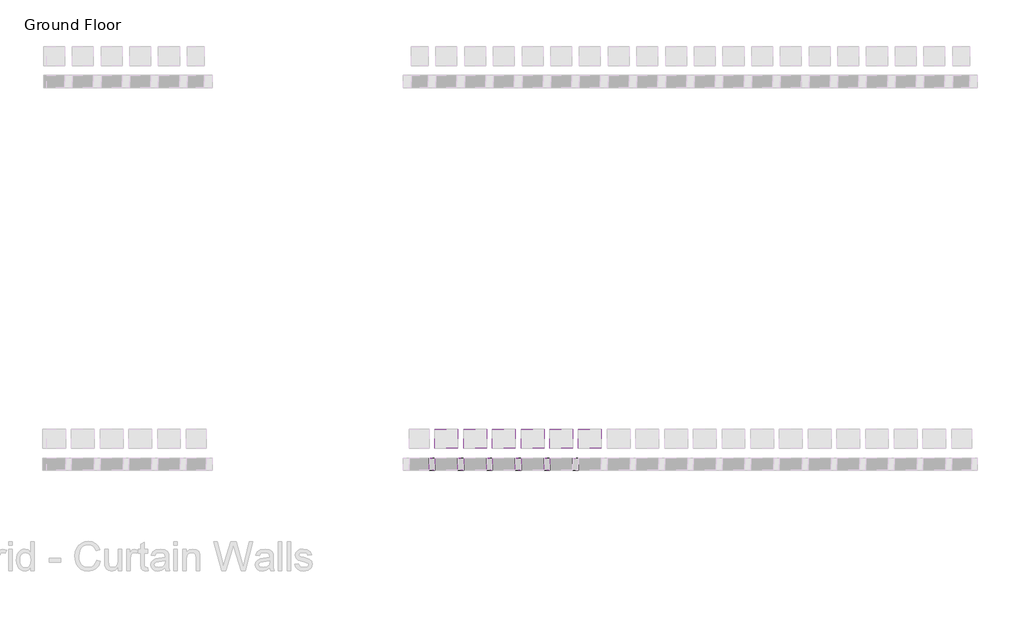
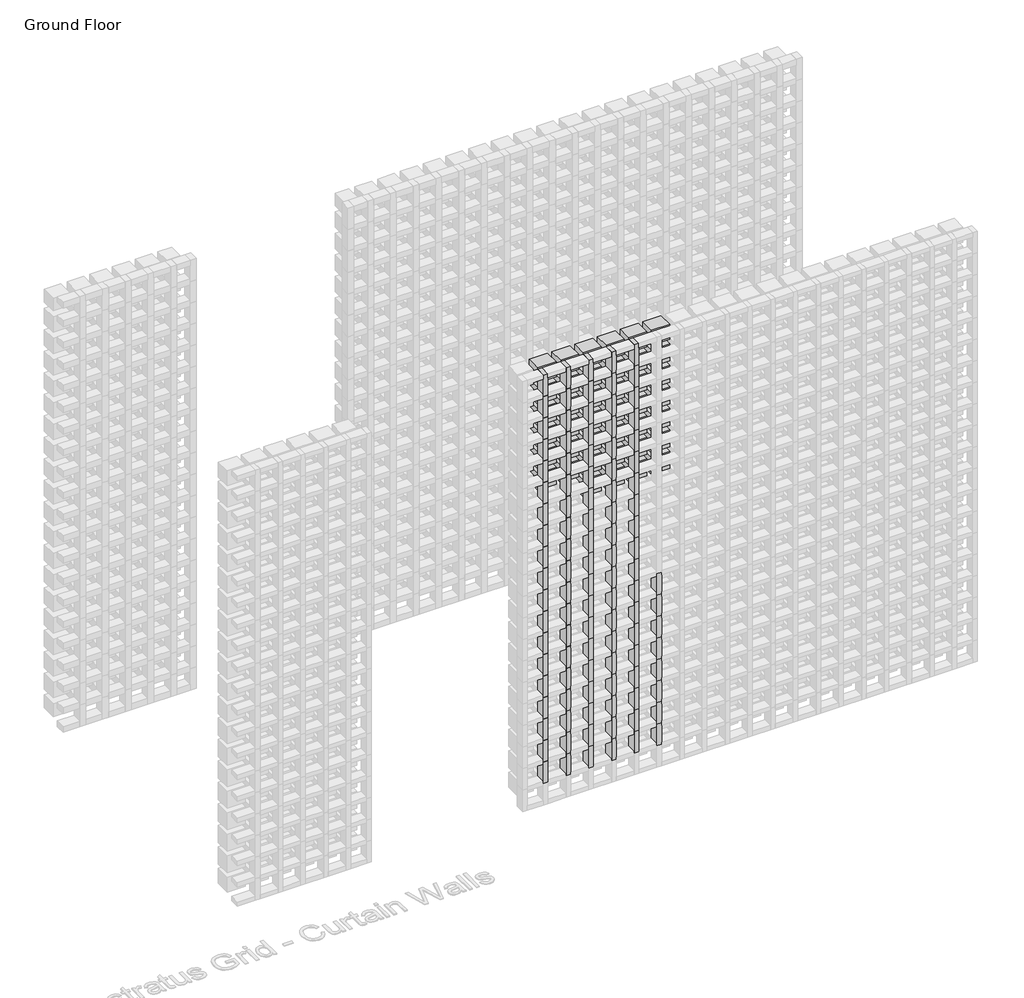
# One storey, part 56 of 350: 103 members, 40 plates.
"""IFC4 building model written with IfcOpenShell, lengths in millimetres."""

from ifc_helpers import new_model, si_unit, origin, place, context, project, spatial, transform, mapped, element, save
from components import rectangular_mullion_5b501421, empty_system_panel_empty_a57e421f, empty_system_panel_empty_fe50b430

model = new_model("IFC4")

# Units and contexts
model_context = context("Model", 3, world=origin())
ifc_project = project(units=[si_unit("LENGTHUNIT", "METRE", prefix="MILLI")], contexts=[model_context])

# Site, building, storey
site = spatial("IfcSite", under=ifc_project)
building = spatial("IfcBuilding", under=site)
storey = spatial("IfcBuildingStorey", under=building, Name="Ground Floor", Elevation=0.0)

# Members
placement = place(None, origin())
rectangular_mullion_shape = rectangular_mullion_5b501421(model_context)
element("IfcMember", 1, ObjectType="Rectangular Mullion : Batten_Timber_Modinex_Austratus_Grid_Fascia_30x65_Blackbutt", at=placement, inside=storey, context=model_context, shape_type="MappedRepresentation", body=[
    mapped(rectangular_mullion_shape, transform((6066.4361642, 38968.2978302, 150.0), x_axis=(1.0, 0.0, 0.0), y_axis=(0.0, -1.0, 0.0), z_axis=(0.0, 0.0, -1.0))),
])
element("IfcMember", 2, ObjectType="Rectangular Mullion : Batten_Timber_Modinex_Austratus_Grid_Fascia_30x65_Blackbutt", at=placement, inside=storey, context=model_context, shape_type="MappedRepresentation", body=[
    mapped(rectangular_mullion_shape, transform((6066.4361642, 38968.2978302, 300.0), x_axis=(1.0, 0.0, 0.0), y_axis=(0.0, -1.0, 0.0), z_axis=(0.0, 0.0, -1.0))),
])
element("IfcMember", 3, ObjectType="Rectangular Mullion : Batten_Timber_Modinex_Austratus_Grid_Fascia_30x65_Blackbutt", at=placement, inside=storey, context=model_context, shape_type="MappedRepresentation", body=[
    mapped(rectangular_mullion_shape, transform((6066.4361642, 38968.2978302, 450.0), x_axis=(1.0, 0.0, 0.0), y_axis=(0.0, -1.0, 0.0), z_axis=(0.0, 0.0, -1.0))),
])
element("IfcMember", 4, ObjectType="Rectangular Mullion : Batten_Timber_Modinex_Austratus_Grid_Fascia_30x65_Blackbutt", at=placement, inside=storey, context=model_context, shape_type="MappedRepresentation", body=[
    mapped(rectangular_mullion_shape, transform((6066.4361642, 38968.2978302, 600.0), x_axis=(1.0, 0.0, 0.0), y_axis=(0.0, -1.0, 0.0), z_axis=(0.0, 0.0, -1.0))),
])
element("IfcMember", 5, ObjectType="Rectangular Mullion : Batten_Timber_Modinex_Austratus_Grid_Fascia_30x65_Blackbutt", at=placement, inside=storey, context=model_context, shape_type="MappedRepresentation", body=[
    mapped(rectangular_mullion_shape, transform((6066.4361642, 38968.2978302, 750.0), x_axis=(1.0, 0.0, 0.0), y_axis=(0.0, -1.0, 0.0), z_axis=(0.0, 0.0, -1.0))),
])
element("IfcMember", 6, ObjectType="Rectangular Mullion : Batten_Timber_Modinex_Austratus_Grid_Fascia_30x65_Blackbutt", at=placement, inside=storey, context=model_context, shape_type="MappedRepresentation", body=[
    mapped(rectangular_mullion_shape, transform((6066.4361642, 38968.2978302, 900.0), x_axis=(1.0, 0.0, 0.0), y_axis=(0.0, -1.0, 0.0), z_axis=(0.0, 0.0, -1.0))),
])
element("IfcMember", 7, ObjectType="Rectangular Mullion : Batten_Timber_Modinex_Austratus_Grid_Fascia_30x65_Blackbutt", at=placement, inside=storey, context=model_context, shape_type="MappedRepresentation", body=[
    mapped(rectangular_mullion_shape, transform((6066.4361642, 38968.2978302, 1050.0), x_axis=(1.0, 0.0, 0.0), y_axis=(0.0, -1.0, 0.0), z_axis=(0.0, 0.0, -1.0))),
])
element("IfcMember", 8, ObjectType="Rectangular Mullion : Batten_Timber_Modinex_Austratus_Grid_Fascia_30x65_Blackbutt", at=placement, inside=storey, context=model_context, shape_type="MappedRepresentation", body=[
    mapped(rectangular_mullion_shape, transform((6066.4361642, 38968.2978302, 1200.0), x_axis=(1.0, 0.0, 0.0), y_axis=(0.0, -1.0, 0.0), z_axis=(0.0, 0.0, -1.0))),
])
element("IfcMember", 9, ObjectType="Rectangular Mullion : Batten_Timber_Modinex_Austratus_Grid_Fascia_30x65_Blackbutt", at=placement, inside=storey, context=model_context, shape_type="MappedRepresentation", body=[
    mapped(rectangular_mullion_shape, transform((6066.4361642, 38968.2978302, 1350.0), x_axis=(1.0, 0.0, 0.0), y_axis=(0.0, -1.0, 0.0), z_axis=(0.0, 0.0, -1.0))),
])
element("IfcMember", 10, ObjectType="Rectangular Mullion : Batten_Timber_Modinex_Austratus_Grid_Fascia_30x65_Blackbutt", at=placement, inside=storey, context=model_context, shape_type="MappedRepresentation", body=[
    mapped(rectangular_mullion_shape, transform((6066.4361642, 38968.2978302, 1500.0), x_axis=(1.0, 0.0, 0.0), y_axis=(0.0, -1.0, 0.0), z_axis=(0.0, 0.0, -1.0))),
])
element("IfcMember", 11, ObjectType="Rectangular Mullion : Batten_Timber_Modinex_Austratus_Grid_Fascia_30x65_Blackbutt", at=placement, inside=storey, context=model_context, shape_type="MappedRepresentation", body=[
    mapped(rectangular_mullion_shape, transform((6066.4361642, 38968.2978302, 1650.0), x_axis=(1.0, 0.0, 0.0), y_axis=(0.0, -1.0, 0.0), z_axis=(0.0, 0.0, -1.0))),
])
element("IfcMember", 12, ObjectType="Rectangular Mullion : Batten_Timber_Modinex_Austratus_Grid_Fascia_30x65_Blackbutt", at=placement, inside=storey, context=model_context, shape_type="MappedRepresentation", body=[
    mapped(rectangular_mullion_shape, transform((6066.4361642, 38968.2978302, 1800.0), x_axis=(1.0, 0.0, 0.0), y_axis=(0.0, -1.0, 0.0), z_axis=(0.0, 0.0, -1.0))),
])
element("IfcMember", 13, ObjectType="Rectangular Mullion : Batten_Timber_Modinex_Austratus_Grid_Fascia_30x65_Blackbutt", at=placement, inside=storey, context=model_context, shape_type="MappedRepresentation", body=[
    mapped(rectangular_mullion_shape, transform((6066.4361642, 38968.2978302, 1950.0), x_axis=(1.0, 0.0, 0.0), y_axis=(0.0, -1.0, 0.0), z_axis=(0.0, 0.0, -1.0))),
])
element("IfcMember", 14, ObjectType="Rectangular Mullion : Batten_Timber_Modinex_Austratus_Grid_Fascia_30x65_Blackbutt", at=placement, inside=storey, context=model_context, shape_type="MappedRepresentation", body=[
    mapped(rectangular_mullion_shape, transform((6066.4361642, 38968.2978302, 2100.0), x_axis=(1.0, 0.0, 0.0), y_axis=(0.0, -1.0, 0.0), z_axis=(0.0, 0.0, -1.0))),
])
element("IfcMember", 15, ObjectType="Rectangular Mullion : Batten_Timber_Modinex_Austratus_Grid_Fascia_30x65_Blackbutt", at=placement, inside=storey, context=model_context, shape_type="MappedRepresentation", body=[
    mapped(rectangular_mullion_shape, transform((6066.4361642, 38968.2978302, 2250.0), x_axis=(1.0, 0.0, 0.0), y_axis=(0.0, -1.0, 0.0), z_axis=(0.0, 0.0, -1.0))),
])
element("IfcMember", 16, ObjectType="Rectangular Mullion : Batten_Timber_Modinex_Austratus_Grid_Fascia_30x65_Blackbutt", at=placement, inside=storey, context=model_context, shape_type="MappedRepresentation", body=[
    mapped(rectangular_mullion_shape, transform((6066.4361642, 38968.2978302, 2400.0), x_axis=(1.0, 0.0, 0.0), y_axis=(0.0, -1.0, 0.0), z_axis=(0.0, 0.0, -1.0))),
])
element("IfcMember", 17, ObjectType="Rectangular Mullion : Batten_Timber_Modinex_Austratus_Grid_Fascia_30x65_Blackbutt", at=placement, inside=storey, context=model_context, shape_type="MappedRepresentation", body=[
    mapped(rectangular_mullion_shape, transform((6066.4361642, 38968.2978302, 2550.0), x_axis=(1.0, 0.0, 0.0), y_axis=(0.0, -1.0, 0.0), z_axis=(0.0, 0.0, -1.0))),
])
element("IfcMember", 18, ObjectType="Rectangular Mullion : Batten_Timber_Modinex_Austratus_Grid_Fascia_30x65_Blackbutt", at=placement, inside=storey, context=model_context, shape_type="MappedRepresentation", body=[
    mapped(rectangular_mullion_shape, transform((6066.4361642, 38968.2978302, 2700.0), x_axis=(1.0, 0.0, 0.0), y_axis=(0.0, -1.0, 0.0), z_axis=(0.0, 0.0, -1.0))),
])
element("IfcMember", 19, ObjectType="Rectangular Mullion : Batten_Timber_Modinex_Austratus_Grid_Fascia_30x65_Blackbutt", at=placement, inside=storey, context=model_context, shape_type="MappedRepresentation", body=[
    mapped(rectangular_mullion_shape, transform((6216.4361642, 38968.2978302, 150.0), x_axis=(1.0, 0.0, 0.0), y_axis=(0.0, -1.0, 0.0), z_axis=(0.0, 0.0, -1.0))),
])
element("IfcMember", 20, ObjectType="Rectangular Mullion : Batten_Timber_Modinex_Austratus_Grid_Fascia_30x65_Blackbutt", at=placement, inside=storey, context=model_context, shape_type="MappedRepresentation", body=[
    mapped(rectangular_mullion_shape, transform((6216.4361642, 38968.2978302, 300.0), x_axis=(1.0, 0.0, 0.0), y_axis=(0.0, -1.0, 0.0), z_axis=(0.0, 0.0, -1.0))),
])
element("IfcMember", 21, ObjectType="Rectangular Mullion : Batten_Timber_Modinex_Austratus_Grid_Fascia_30x65_Blackbutt", at=placement, inside=storey, context=model_context, shape_type="MappedRepresentation", body=[
    mapped(rectangular_mullion_shape, transform((6216.4361642, 38968.2978302, 450.0), x_axis=(1.0, 0.0, 0.0), y_axis=(0.0, -1.0, 0.0), z_axis=(0.0, 0.0, -1.0))),
])
element("IfcMember", 22, ObjectType="Rectangular Mullion : Batten_Timber_Modinex_Austratus_Grid_Fascia_30x65_Blackbutt", at=placement, inside=storey, context=model_context, shape_type="MappedRepresentation", body=[
    mapped(rectangular_mullion_shape, transform((6216.4361642, 38968.2978302, 600.0), x_axis=(1.0, 0.0, 0.0), y_axis=(0.0, -1.0, 0.0), z_axis=(0.0, 0.0, -1.0))),
])
element("IfcMember", 23, ObjectType="Rectangular Mullion : Batten_Timber_Modinex_Austratus_Grid_Fascia_30x65_Blackbutt", at=placement, inside=storey, context=model_context, shape_type="MappedRepresentation", body=[
    mapped(rectangular_mullion_shape, transform((6216.4361642, 38968.2978302, 750.0), x_axis=(1.0, 0.0, 0.0), y_axis=(0.0, -1.0, 0.0), z_axis=(0.0, 0.0, -1.0))),
])
element("IfcMember", 24, ObjectType="Rectangular Mullion : Batten_Timber_Modinex_Austratus_Grid_Fascia_30x65_Blackbutt", at=placement, inside=storey, context=model_context, shape_type="MappedRepresentation", body=[
    mapped(rectangular_mullion_shape, transform((6216.4361642, 38968.2978302, 900.0), x_axis=(1.0, 0.0, 0.0), y_axis=(0.0, -1.0, 0.0), z_axis=(0.0, 0.0, -1.0))),
])
element("IfcMember", 25, ObjectType="Rectangular Mullion : Batten_Timber_Modinex_Austratus_Grid_Fascia_30x65_Blackbutt", at=placement, inside=storey, context=model_context, shape_type="MappedRepresentation", body=[
    mapped(rectangular_mullion_shape, transform((6216.4361642, 38968.2978302, 1050.0), x_axis=(1.0, 0.0, 0.0), y_axis=(0.0, -1.0, 0.0), z_axis=(0.0, 0.0, -1.0))),
])
element("IfcMember", 26, ObjectType="Rectangular Mullion : Batten_Timber_Modinex_Austratus_Grid_Fascia_30x65_Blackbutt", at=placement, inside=storey, context=model_context, shape_type="MappedRepresentation", body=[
    mapped(rectangular_mullion_shape, transform((6216.4361642, 38968.2978302, 1200.0), x_axis=(1.0, 0.0, 0.0), y_axis=(0.0, -1.0, 0.0), z_axis=(0.0, 0.0, -1.0))),
])
element("IfcMember", 27, ObjectType="Rectangular Mullion : Batten_Timber_Modinex_Austratus_Grid_Fascia_30x65_Blackbutt", at=placement, inside=storey, context=model_context, shape_type="MappedRepresentation", body=[
    mapped(rectangular_mullion_shape, transform((6216.4361642, 38968.2978302, 1350.0), x_axis=(1.0, 0.0, 0.0), y_axis=(0.0, -1.0, 0.0), z_axis=(0.0, 0.0, -1.0))),
])
element("IfcMember", 28, ObjectType="Rectangular Mullion : Batten_Timber_Modinex_Austratus_Grid_Fascia_30x65_Blackbutt", at=placement, inside=storey, context=model_context, shape_type="MappedRepresentation", body=[
    mapped(rectangular_mullion_shape, transform((6216.4361642, 38968.2978302, 1500.0), x_axis=(1.0, 0.0, 0.0), y_axis=(0.0, -1.0, 0.0), z_axis=(0.0, 0.0, -1.0))),
])
element("IfcMember", 29, ObjectType="Rectangular Mullion : Batten_Timber_Modinex_Austratus_Grid_Fascia_30x65_Blackbutt", at=placement, inside=storey, context=model_context, shape_type="MappedRepresentation", body=[
    mapped(rectangular_mullion_shape, transform((6216.4361642, 38968.2978302, 1650.0), x_axis=(1.0, 0.0, 0.0), y_axis=(0.0, -1.0, 0.0), z_axis=(0.0, 0.0, -1.0))),
])
element("IfcMember", 30, ObjectType="Rectangular Mullion : Batten_Timber_Modinex_Austratus_Grid_Fascia_30x65_Blackbutt", at=placement, inside=storey, context=model_context, shape_type="MappedRepresentation", body=[
    mapped(rectangular_mullion_shape, transform((6216.4361642, 38968.2978302, 1800.0), x_axis=(1.0, 0.0, 0.0), y_axis=(0.0, -1.0, 0.0), z_axis=(0.0, 0.0, -1.0))),
])
element("IfcMember", 31, ObjectType="Rectangular Mullion : Batten_Timber_Modinex_Austratus_Grid_Fascia_30x65_Blackbutt", at=placement, inside=storey, context=model_context, shape_type="MappedRepresentation", body=[
    mapped(rectangular_mullion_shape, transform((6216.4361642, 38968.2978302, 1950.0), x_axis=(1.0, 0.0, 0.0), y_axis=(0.0, -1.0, 0.0), z_axis=(0.0, 0.0, -1.0))),
])
element("IfcMember", 32, ObjectType="Rectangular Mullion : Batten_Timber_Modinex_Austratus_Grid_Fascia_30x65_Blackbutt", at=placement, inside=storey, context=model_context, shape_type="MappedRepresentation", body=[
    mapped(rectangular_mullion_shape, transform((6216.4361642, 38968.2978302, 2100.0), x_axis=(1.0, 0.0, 0.0), y_axis=(0.0, -1.0, 0.0), z_axis=(0.0, 0.0, -1.0))),
])
element("IfcMember", 33, ObjectType="Rectangular Mullion : Batten_Timber_Modinex_Austratus_Grid_Fascia_30x65_Blackbutt", at=placement, inside=storey, context=model_context, shape_type="MappedRepresentation", body=[
    mapped(rectangular_mullion_shape, transform((6216.4361642, 38968.2978302, 2250.0), x_axis=(1.0, 0.0, 0.0), y_axis=(0.0, -1.0, 0.0), z_axis=(0.0, 0.0, -1.0))),
])
element("IfcMember", 34, ObjectType="Rectangular Mullion : Batten_Timber_Modinex_Austratus_Grid_Fascia_30x65_Blackbutt", at=placement, inside=storey, context=model_context, shape_type="MappedRepresentation", body=[
    mapped(rectangular_mullion_shape, transform((6216.4361642, 38968.2978302, 2400.0), x_axis=(1.0, 0.0, 0.0), y_axis=(0.0, -1.0, 0.0), z_axis=(0.0, 0.0, -1.0))),
])
element("IfcMember", 35, ObjectType="Rectangular Mullion : Batten_Timber_Modinex_Austratus_Grid_Fascia_30x65_Blackbutt", at=placement, inside=storey, context=model_context, shape_type="MappedRepresentation", body=[
    mapped(rectangular_mullion_shape, transform((6216.4361642, 38968.2978302, 2550.0), x_axis=(1.0, 0.0, 0.0), y_axis=(0.0, -1.0, 0.0), z_axis=(0.0, 0.0, -1.0))),
])
element("IfcMember", 36, ObjectType="Rectangular Mullion : Batten_Timber_Modinex_Austratus_Grid_Fascia_30x65_Blackbutt", at=placement, inside=storey, context=model_context, shape_type="MappedRepresentation", body=[
    mapped(rectangular_mullion_shape, transform((6216.4361642, 38968.2978302, 2700.0), x_axis=(1.0, 0.0, 0.0), y_axis=(0.0, -1.0, 0.0), z_axis=(0.0, 0.0, -1.0))),
])
element("IfcMember", 37, ObjectType="Rectangular Mullion : Batten_Timber_Modinex_Austratus_Grid_Fascia_30x65_Blackbutt", at=placement, inside=storey, context=model_context, shape_type="MappedRepresentation", body=[
    mapped(rectangular_mullion_shape, transform((6366.4361642, 38968.2978302, 150.0), x_axis=(1.0, 0.0, 0.0), y_axis=(0.0, -1.0, 0.0), z_axis=(0.0, 0.0, -1.0))),
])
element("IfcMember", 38, ObjectType="Rectangular Mullion : Batten_Timber_Modinex_Austratus_Grid_Fascia_30x65_Blackbutt", at=placement, inside=storey, context=model_context, shape_type="MappedRepresentation", body=[
    mapped(rectangular_mullion_shape, transform((6366.4361642, 38968.2978302, 300.0), x_axis=(1.0, 0.0, 0.0), y_axis=(0.0, -1.0, 0.0), z_axis=(0.0, 0.0, -1.0))),
])
element("IfcMember", 39, ObjectType="Rectangular Mullion : Batten_Timber_Modinex_Austratus_Grid_Fascia_30x65_Blackbutt", at=placement, inside=storey, context=model_context, shape_type="MappedRepresentation", body=[
    mapped(rectangular_mullion_shape, transform((6366.4361642, 38968.2978302, 450.0), x_axis=(1.0, 0.0, 0.0), y_axis=(0.0, -1.0, 0.0), z_axis=(0.0, 0.0, -1.0))),
])
element("IfcMember", 40, ObjectType="Rectangular Mullion : Batten_Timber_Modinex_Austratus_Grid_Fascia_30x65_Blackbutt", at=placement, inside=storey, context=model_context, shape_type="MappedRepresentation", body=[
    mapped(rectangular_mullion_shape, transform((6366.4361642, 38968.2978302, 600.0), x_axis=(1.0, 0.0, 0.0), y_axis=(0.0, -1.0, 0.0), z_axis=(0.0, 0.0, -1.0))),
])
element("IfcMember", 41, ObjectType="Rectangular Mullion : Batten_Timber_Modinex_Austratus_Grid_Fascia_30x65_Blackbutt", at=placement, inside=storey, context=model_context, shape_type="MappedRepresentation", body=[
    mapped(rectangular_mullion_shape, transform((6366.4361642, 38968.2978302, 750.0), x_axis=(1.0, 0.0, 0.0), y_axis=(0.0, -1.0, 0.0), z_axis=(0.0, 0.0, -1.0))),
])
element("IfcMember", 42, ObjectType="Rectangular Mullion : Batten_Timber_Modinex_Austratus_Grid_Fascia_30x65_Blackbutt", at=placement, inside=storey, context=model_context, shape_type="MappedRepresentation", body=[
    mapped(rectangular_mullion_shape, transform((6366.4361642, 38968.2978302, 900.0), x_axis=(1.0, 0.0, 0.0), y_axis=(0.0, -1.0, 0.0), z_axis=(0.0, 0.0, -1.0))),
])
element("IfcMember", 43, ObjectType="Rectangular Mullion : Batten_Timber_Modinex_Austratus_Grid_Fascia_30x65_Blackbutt", at=placement, inside=storey, context=model_context, shape_type="MappedRepresentation", body=[
    mapped(rectangular_mullion_shape, transform((6366.4361642, 38968.2978302, 1050.0), x_axis=(1.0, 0.0, 0.0), y_axis=(0.0, -1.0, 0.0), z_axis=(0.0, 0.0, -1.0))),
])
element("IfcMember", 44, ObjectType="Rectangular Mullion : Batten_Timber_Modinex_Austratus_Grid_Fascia_30x65_Blackbutt", at=placement, inside=storey, context=model_context, shape_type="MappedRepresentation", body=[
    mapped(rectangular_mullion_shape, transform((6366.4361642, 38968.2978302, 1200.0), x_axis=(1.0, 0.0, 0.0), y_axis=(0.0, -1.0, 0.0), z_axis=(0.0, 0.0, -1.0))),
])
element("IfcMember", 45, ObjectType="Rectangular Mullion : Batten_Timber_Modinex_Austratus_Grid_Fascia_30x65_Blackbutt", at=placement, inside=storey, context=model_context, shape_type="MappedRepresentation", body=[
    mapped(rectangular_mullion_shape, transform((6366.4361642, 38968.2978302, 1350.0), x_axis=(1.0, 0.0, 0.0), y_axis=(0.0, -1.0, 0.0), z_axis=(0.0, 0.0, -1.0))),
])
element("IfcMember", 46, ObjectType="Rectangular Mullion : Batten_Timber_Modinex_Austratus_Grid_Fascia_30x65_Blackbutt", at=placement, inside=storey, context=model_context, shape_type="MappedRepresentation", body=[
    mapped(rectangular_mullion_shape, transform((6366.4361642, 38968.2978302, 1500.0), x_axis=(1.0, 0.0, 0.0), y_axis=(0.0, -1.0, 0.0), z_axis=(0.0, 0.0, -1.0))),
])
element("IfcMember", 47, ObjectType="Rectangular Mullion : Batten_Timber_Modinex_Austratus_Grid_Fascia_30x65_Blackbutt", at=placement, inside=storey, context=model_context, shape_type="MappedRepresentation", body=[
    mapped(rectangular_mullion_shape, transform((6366.4361642, 38968.2978302, 1650.0), x_axis=(1.0, 0.0, 0.0), y_axis=(0.0, -1.0, 0.0), z_axis=(0.0, 0.0, -1.0))),
])
element("IfcMember", 48, ObjectType="Rectangular Mullion : Batten_Timber_Modinex_Austratus_Grid_Fascia_30x65_Blackbutt", at=placement, inside=storey, context=model_context, shape_type="MappedRepresentation", body=[
    mapped(rectangular_mullion_shape, transform((6366.4361642, 38968.2978302, 1800.0), x_axis=(1.0, 0.0, 0.0), y_axis=(0.0, -1.0, 0.0), z_axis=(0.0, 0.0, -1.0))),
])
element("IfcMember", 49, ObjectType="Rectangular Mullion : Batten_Timber_Modinex_Austratus_Grid_Fascia_30x65_Blackbutt", at=placement, inside=storey, context=model_context, shape_type="MappedRepresentation", body=[
    mapped(rectangular_mullion_shape, transform((6366.4361642, 38968.2978302, 1950.0), x_axis=(1.0, 0.0, 0.0), y_axis=(0.0, -1.0, 0.0), z_axis=(0.0, 0.0, -1.0))),
])
element("IfcMember", 50, ObjectType="Rectangular Mullion : Batten_Timber_Modinex_Austratus_Grid_Fascia_30x65_Blackbutt", at=placement, inside=storey, context=model_context, shape_type="MappedRepresentation", body=[
    mapped(rectangular_mullion_shape, transform((6366.4361642, 38968.2978302, 2100.0), x_axis=(1.0, 0.0, 0.0), y_axis=(0.0, -1.0, 0.0), z_axis=(0.0, 0.0, -1.0))),
])
element("IfcMember", 51, ObjectType="Rectangular Mullion : Batten_Timber_Modinex_Austratus_Grid_Fascia_30x65_Blackbutt", at=placement, inside=storey, context=model_context, shape_type="MappedRepresentation", body=[
    mapped(rectangular_mullion_shape, transform((6366.4361642, 38968.2978302, 2250.0), x_axis=(1.0, 0.0, 0.0), y_axis=(0.0, -1.0, 0.0), z_axis=(0.0, 0.0, -1.0))),
])
element("IfcMember", 52, ObjectType="Rectangular Mullion : Batten_Timber_Modinex_Austratus_Grid_Fascia_30x65_Blackbutt", at=placement, inside=storey, context=model_context, shape_type="MappedRepresentation", body=[
    mapped(rectangular_mullion_shape, transform((6366.4361642, 38968.2978302, 2400.0), x_axis=(1.0, 0.0, 0.0), y_axis=(0.0, -1.0, 0.0), z_axis=(0.0, 0.0, -1.0))),
])
element("IfcMember", 53, ObjectType="Rectangular Mullion : Batten_Timber_Modinex_Austratus_Grid_Fascia_30x65_Blackbutt", at=placement, inside=storey, context=model_context, shape_type="MappedRepresentation", body=[
    mapped(rectangular_mullion_shape, transform((6366.4361642, 38968.2978302, 2550.0), x_axis=(1.0, 0.0, 0.0), y_axis=(0.0, -1.0, 0.0), z_axis=(0.0, 0.0, -1.0))),
])
element("IfcMember", 54, ObjectType="Rectangular Mullion : Batten_Timber_Modinex_Austratus_Grid_Fascia_30x65_Blackbutt", at=placement, inside=storey, context=model_context, shape_type="MappedRepresentation", body=[
    mapped(rectangular_mullion_shape, transform((6366.4361642, 38968.2978302, 2700.0), x_axis=(1.0, 0.0, 0.0), y_axis=(0.0, -1.0, 0.0), z_axis=(0.0, 0.0, -1.0))),
])
element("IfcMember", 55, ObjectType="Rectangular Mullion : Batten_Timber_Modinex_Austratus_Grid_Fascia_30x65_Blackbutt", at=placement, inside=storey, context=model_context, shape_type="MappedRepresentation", body=[
    mapped(rectangular_mullion_shape, transform((6516.4361642, 38968.2978302, 150.0), x_axis=(1.0, 0.0, 0.0), y_axis=(0.0, -1.0, 0.0), z_axis=(0.0, 0.0, -1.0))),
])
element("IfcMember", 56, ObjectType="Rectangular Mullion : Batten_Timber_Modinex_Austratus_Grid_Fascia_30x65_Blackbutt", at=placement, inside=storey, context=model_context, shape_type="MappedRepresentation", body=[
    mapped(rectangular_mullion_shape, transform((6516.4361642, 38968.2978302, 300.0), x_axis=(1.0, 0.0, 0.0), y_axis=(0.0, -1.0, 0.0), z_axis=(0.0, 0.0, -1.0))),
])
element("IfcMember", 57, ObjectType="Rectangular Mullion : Batten_Timber_Modinex_Austratus_Grid_Fascia_30x65_Blackbutt", at=placement, inside=storey, context=model_context, shape_type="MappedRepresentation", body=[
    mapped(rectangular_mullion_shape, transform((6516.4361642, 38968.2978302, 450.0), x_axis=(1.0, 0.0, 0.0), y_axis=(0.0, -1.0, 0.0), z_axis=(0.0, 0.0, -1.0))),
])
element("IfcMember", 58, ObjectType="Rectangular Mullion : Batten_Timber_Modinex_Austratus_Grid_Fascia_30x65_Blackbutt", at=placement, inside=storey, context=model_context, shape_type="MappedRepresentation", body=[
    mapped(rectangular_mullion_shape, transform((6516.4361642, 38968.2978302, 600.0), x_axis=(1.0, 0.0, 0.0), y_axis=(0.0, -1.0, 0.0), z_axis=(0.0, 0.0, -1.0))),
])
element("IfcMember", 59, ObjectType="Rectangular Mullion : Batten_Timber_Modinex_Austratus_Grid_Fascia_30x65_Blackbutt", at=placement, inside=storey, context=model_context, shape_type="MappedRepresentation", body=[
    mapped(rectangular_mullion_shape, transform((6516.4361642, 38968.2978302, 750.0), x_axis=(1.0, 0.0, 0.0), y_axis=(0.0, -1.0, 0.0), z_axis=(0.0, 0.0, -1.0))),
])
element("IfcMember", 60, ObjectType="Rectangular Mullion : Batten_Timber_Modinex_Austratus_Grid_Fascia_30x65_Blackbutt", at=placement, inside=storey, context=model_context, shape_type="MappedRepresentation", body=[
    mapped(rectangular_mullion_shape, transform((6516.4361642, 38968.2978302, 900.0), x_axis=(1.0, 0.0, 0.0), y_axis=(0.0, -1.0, 0.0), z_axis=(0.0, 0.0, -1.0))),
])
element("IfcMember", 61, ObjectType="Rectangular Mullion : Batten_Timber_Modinex_Austratus_Grid_Fascia_30x65_Blackbutt", at=placement, inside=storey, context=model_context, shape_type="MappedRepresentation", body=[
    mapped(rectangular_mullion_shape, transform((6516.4361642, 38968.2978302, 1050.0), x_axis=(1.0, 0.0, 0.0), y_axis=(0.0, -1.0, 0.0), z_axis=(0.0, 0.0, -1.0))),
])
element("IfcMember", 62, ObjectType="Rectangular Mullion : Batten_Timber_Modinex_Austratus_Grid_Fascia_30x65_Blackbutt", at=placement, inside=storey, context=model_context, shape_type="MappedRepresentation", body=[
    mapped(rectangular_mullion_shape, transform((6516.4361642, 38968.2978302, 1200.0), x_axis=(1.0, 0.0, 0.0), y_axis=(0.0, -1.0, 0.0), z_axis=(0.0, 0.0, -1.0))),
])
element("IfcMember", 63, ObjectType="Rectangular Mullion : Batten_Timber_Modinex_Austratus_Grid_Fascia_30x65_Blackbutt", at=placement, inside=storey, context=model_context, shape_type="MappedRepresentation", body=[
    mapped(rectangular_mullion_shape, transform((6516.4361642, 38968.2978302, 1350.0), x_axis=(1.0, 0.0, 0.0), y_axis=(0.0, -1.0, 0.0), z_axis=(0.0, 0.0, -1.0))),
])
element("IfcMember", 64, ObjectType="Rectangular Mullion : Batten_Timber_Modinex_Austratus_Grid_Fascia_30x65_Blackbutt", at=placement, inside=storey, context=model_context, shape_type="MappedRepresentation", body=[
    mapped(rectangular_mullion_shape, transform((6516.4361642, 38968.2978302, 1500.0), x_axis=(1.0, 0.0, 0.0), y_axis=(0.0, -1.0, 0.0), z_axis=(0.0, 0.0, -1.0))),
])
element("IfcMember", 65, ObjectType="Rectangular Mullion : Batten_Timber_Modinex_Austratus_Grid_Fascia_30x65_Blackbutt", at=placement, inside=storey, context=model_context, shape_type="MappedRepresentation", body=[
    mapped(rectangular_mullion_shape, transform((6516.4361642, 38968.2978302, 1650.0), x_axis=(1.0, 0.0, 0.0), y_axis=(0.0, -1.0, 0.0), z_axis=(0.0, 0.0, -1.0))),
])
element("IfcMember", 66, ObjectType="Rectangular Mullion : Batten_Timber_Modinex_Austratus_Grid_Fascia_30x65_Blackbutt", at=placement, inside=storey, context=model_context, shape_type="MappedRepresentation", body=[
    mapped(rectangular_mullion_shape, transform((6516.4361642, 38968.2978302, 1800.0), x_axis=(1.0, 0.0, 0.0), y_axis=(0.0, -1.0, 0.0), z_axis=(0.0, 0.0, -1.0))),
])
element("IfcMember", 67, ObjectType="Rectangular Mullion : Batten_Timber_Modinex_Austratus_Grid_Fascia_30x65_Blackbutt", at=placement, inside=storey, context=model_context, shape_type="MappedRepresentation", body=[
    mapped(rectangular_mullion_shape, transform((6516.4361642, 38968.2978302, 1950.0), x_axis=(1.0, 0.0, 0.0), y_axis=(0.0, -1.0, 0.0), z_axis=(0.0, 0.0, -1.0))),
])
element("IfcMember", 68, ObjectType="Rectangular Mullion : Batten_Timber_Modinex_Austratus_Grid_Fascia_30x65_Blackbutt", at=placement, inside=storey, context=model_context, shape_type="MappedRepresentation", body=[
    mapped(rectangular_mullion_shape, transform((6516.4361642, 38968.2978302, 2100.0), x_axis=(1.0, 0.0, 0.0), y_axis=(0.0, -1.0, 0.0), z_axis=(0.0, 0.0, -1.0))),
])
element("IfcMember", 69, ObjectType="Rectangular Mullion : Batten_Timber_Modinex_Austratus_Grid_Fascia_30x65_Blackbutt", at=placement, inside=storey, context=model_context, shape_type="MappedRepresentation", body=[
    mapped(rectangular_mullion_shape, transform((6516.4361642, 38968.2978302, 2250.0), x_axis=(1.0, 0.0, 0.0), y_axis=(0.0, -1.0, 0.0), z_axis=(0.0, 0.0, -1.0))),
])
element("IfcMember", 70, ObjectType="Rectangular Mullion : Batten_Timber_Modinex_Austratus_Grid_Fascia_30x65_Blackbutt", at=placement, inside=storey, context=model_context, shape_type="MappedRepresentation", body=[
    mapped(rectangular_mullion_shape, transform((6516.4361642, 38968.2978302, 2400.0), x_axis=(1.0, 0.0, 0.0), y_axis=(0.0, -1.0, 0.0), z_axis=(0.0, 0.0, -1.0))),
])
element("IfcMember", 71, ObjectType="Rectangular Mullion : Batten_Timber_Modinex_Austratus_Grid_Fascia_30x65_Blackbutt", at=placement, inside=storey, context=model_context, shape_type="MappedRepresentation", body=[
    mapped(rectangular_mullion_shape, transform((6516.4361642, 38968.2978302, 2550.0), x_axis=(1.0, 0.0, 0.0), y_axis=(0.0, -1.0, 0.0), z_axis=(0.0, 0.0, -1.0))),
])
element("IfcMember", 72, ObjectType="Rectangular Mullion : Batten_Timber_Modinex_Austratus_Grid_Fascia_30x65_Blackbutt", at=placement, inside=storey, context=model_context, shape_type="MappedRepresentation", body=[
    mapped(rectangular_mullion_shape, transform((6516.4361642, 38968.2978302, 2700.0), x_axis=(1.0, 0.0, 0.0), y_axis=(0.0, -1.0, 0.0), z_axis=(0.0, 0.0, -1.0))),
])
element("IfcMember", 73, ObjectType="Rectangular Mullion : Batten_Timber_Modinex_Austratus_Grid_Fascia_30x65_Blackbutt", at=placement, inside=storey, context=model_context, shape_type="MappedRepresentation", body=[
    mapped(rectangular_mullion_shape, transform((6666.4361642, 38968.2978302, 150.0), x_axis=(1.0, 0.0, 0.0), y_axis=(0.0, -1.0, 0.0), z_axis=(0.0, 0.0, -1.0))),
])
element("IfcMember", 74, ObjectType="Rectangular Mullion : Batten_Timber_Modinex_Austratus_Grid_Fascia_30x65_Blackbutt", at=placement, inside=storey, context=model_context, shape_type="MappedRepresentation", body=[
    mapped(rectangular_mullion_shape, transform((6666.4361642, 38968.2978302, 300.0), x_axis=(1.0, 0.0, 0.0), y_axis=(0.0, -1.0, 0.0), z_axis=(0.0, 0.0, -1.0))),
])
element("IfcMember", 75, ObjectType="Rectangular Mullion : Batten_Timber_Modinex_Austratus_Grid_Fascia_30x65_Blackbutt", at=placement, inside=storey, context=model_context, shape_type="MappedRepresentation", body=[
    mapped(rectangular_mullion_shape, transform((6666.4361642, 38968.2978302, 450.0), x_axis=(1.0, 0.0, 0.0), y_axis=(0.0, -1.0, 0.0), z_axis=(0.0, 0.0, -1.0))),
])
element("IfcMember", 76, ObjectType="Rectangular Mullion : Batten_Timber_Modinex_Austratus_Grid_Fascia_30x65_Blackbutt", at=placement, inside=storey, context=model_context, shape_type="MappedRepresentation", body=[
    mapped(rectangular_mullion_shape, transform((6666.4361642, 38968.2978302, 600.0), x_axis=(1.0, 0.0, 0.0), y_axis=(0.0, -1.0, 0.0), z_axis=(0.0, 0.0, -1.0))),
])
element("IfcMember", 77, ObjectType="Rectangular Mullion : Batten_Timber_Modinex_Austratus_Grid_Fascia_30x65_Blackbutt", at=placement, inside=storey, context=model_context, shape_type="MappedRepresentation", body=[
    mapped(rectangular_mullion_shape, transform((6666.4361642, 38968.2978302, 750.0), x_axis=(1.0, 0.0, 0.0), y_axis=(0.0, -1.0, 0.0), z_axis=(0.0, 0.0, -1.0))),
])
element("IfcMember", 78, ObjectType="Rectangular Mullion : Batten_Timber_Modinex_Austratus_Grid_Fascia_30x65_Blackbutt", at=placement, inside=storey, context=model_context, shape_type="MappedRepresentation", body=[
    mapped(rectangular_mullion_shape, transform((6666.4361642, 38968.2978302, 900.0), x_axis=(1.0, 0.0, 0.0), y_axis=(0.0, -1.0, 0.0), z_axis=(0.0, 0.0, -1.0))),
])
element("IfcMember", 79, ObjectType="Rectangular Mullion : Batten_Timber_Modinex_Austratus_Grid_Fascia_30x65_Blackbutt", at=placement, inside=storey, context=model_context, shape_type="MappedRepresentation", body=[
    mapped(rectangular_mullion_shape, transform((6666.4361642, 38968.2978302, 1050.0), x_axis=(1.0, 0.0, 0.0), y_axis=(0.0, -1.0, 0.0), z_axis=(0.0, 0.0, -1.0))),
])
element("IfcMember", 80, ObjectType="Rectangular Mullion : Batten_Timber_Modinex_Austratus_Grid_Fascia_30x65_Blackbutt", at=placement, inside=storey, context=model_context, shape_type="MappedRepresentation", body=[
    mapped(rectangular_mullion_shape, transform((6666.4361642, 38968.2978302, 1200.0), x_axis=(1.0, 0.0, 0.0), y_axis=(0.0, -1.0, 0.0), z_axis=(0.0, 0.0, -1.0))),
])
element("IfcMember", 81, ObjectType="Rectangular Mullion : Batten_Timber_Modinex_Austratus_Grid_Fascia_30x65_Blackbutt", at=placement, inside=storey, context=model_context, shape_type="MappedRepresentation", body=[
    mapped(rectangular_mullion_shape, transform((6666.4361642, 38968.2978302, 1350.0), x_axis=(1.0, 0.0, 0.0), y_axis=(0.0, -1.0, 0.0), z_axis=(0.0, 0.0, -1.0))),
])
element("IfcMember", 82, ObjectType="Rectangular Mullion : Batten_Timber_Modinex_Austratus_Grid_Fascia_30x65_Blackbutt", at=placement, inside=storey, context=model_context, shape_type="MappedRepresentation", body=[
    mapped(rectangular_mullion_shape, transform((6666.4361642, 38968.2978302, 1500.0), x_axis=(1.0, 0.0, 0.0), y_axis=(0.0, -1.0, 0.0), z_axis=(0.0, 0.0, -1.0))),
])
element("IfcMember", 83, ObjectType="Rectangular Mullion : Batten_Timber_Modinex_Austratus_Grid_Fascia_30x65_Blackbutt", at=placement, inside=storey, context=model_context, shape_type="MappedRepresentation", body=[
    mapped(rectangular_mullion_shape, transform((6666.4361642, 38968.2978302, 1650.0), x_axis=(1.0, 0.0, 0.0), y_axis=(0.0, -1.0, 0.0), z_axis=(0.0, 0.0, -1.0))),
])
element("IfcMember", 84, ObjectType="Rectangular Mullion : Batten_Timber_Modinex_Austratus_Grid_Fascia_30x65_Blackbutt", at=placement, inside=storey, context=model_context, shape_type="MappedRepresentation", body=[
    mapped(rectangular_mullion_shape, transform((6666.4361642, 38968.2978302, 1800.0), x_axis=(1.0, 0.0, 0.0), y_axis=(0.0, -1.0, 0.0), z_axis=(0.0, 0.0, -1.0))),
])
element("IfcMember", 85, ObjectType="Rectangular Mullion : Batten_Timber_Modinex_Austratus_Grid_Fascia_30x65_Blackbutt", at=placement, inside=storey, context=model_context, shape_type="MappedRepresentation", body=[
    mapped(rectangular_mullion_shape, transform((6666.4361642, 38968.2978302, 1950.0), x_axis=(1.0, 0.0, 0.0), y_axis=(0.0, -1.0, 0.0), z_axis=(0.0, 0.0, -1.0))),
])
element("IfcMember", 86, ObjectType="Rectangular Mullion : Batten_Timber_Modinex_Austratus_Grid_Fascia_30x65_Blackbutt", at=placement, inside=storey, context=model_context, shape_type="MappedRepresentation", body=[
    mapped(rectangular_mullion_shape, transform((6666.4361642, 38968.2978302, 2100.0), x_axis=(1.0, 0.0, 0.0), y_axis=(0.0, -1.0, 0.0), z_axis=(0.0, 0.0, -1.0))),
])
element("IfcMember", 87, ObjectType="Rectangular Mullion : Batten_Timber_Modinex_Austratus_Grid_Fascia_30x65_Blackbutt", at=placement, inside=storey, context=model_context, shape_type="MappedRepresentation", body=[
    mapped(rectangular_mullion_shape, transform((6666.4361642, 38968.2978302, 2250.0), x_axis=(1.0, 0.0, 0.0), y_axis=(0.0, -1.0, 0.0), z_axis=(0.0, 0.0, -1.0))),
])
element("IfcMember", 88, ObjectType="Rectangular Mullion : Batten_Timber_Modinex_Austratus_Grid_Fascia_30x65_Blackbutt", at=placement, inside=storey, context=model_context, shape_type="MappedRepresentation", body=[
    mapped(rectangular_mullion_shape, transform((6666.4361642, 38968.2978302, 2400.0), x_axis=(1.0, 0.0, 0.0), y_axis=(0.0, -1.0, 0.0), z_axis=(0.0, 0.0, -1.0))),
])
element("IfcMember", 89, ObjectType="Rectangular Mullion : Batten_Timber_Modinex_Austratus_Grid_Fascia_30x65_Blackbutt", at=placement, inside=storey, context=model_context, shape_type="MappedRepresentation", body=[
    mapped(rectangular_mullion_shape, transform((6666.4361642, 38968.2978302, 2550.0), x_axis=(1.0, 0.0, 0.0), y_axis=(0.0, -1.0, 0.0), z_axis=(0.0, 0.0, -1.0))),
])
element("IfcMember", 90, ObjectType="Rectangular Mullion : Batten_Timber_Modinex_Austratus_Grid_Fascia_30x65_Blackbutt", at=placement, inside=storey, context=model_context, shape_type="MappedRepresentation", body=[
    mapped(rectangular_mullion_shape, transform((6666.4361642, 38968.2978302, 2700.0), x_axis=(1.0, 0.0, 0.0), y_axis=(0.0, -1.0, 0.0), z_axis=(0.0, 0.0, -1.0))),
])
element("IfcMember", 91, ObjectType="Rectangular Mullion : Batten_Timber_Modinex_Austratus_Grid_Fascia_30x65_Blackbutt", at=placement, inside=storey, context=model_context, shape_type="MappedRepresentation", body=[
    mapped(rectangular_mullion_shape, transform((6816.4361642, 38968.2978302, 150.0), x_axis=(1.0, 0.0, 0.0), y_axis=(0.0, -1.0, 0.0), z_axis=(0.0, 0.0, -1.0))),
])
element("IfcMember", 92, ObjectType="Rectangular Mullion : Batten_Timber_Modinex_Austratus_Grid_Fascia_30x65_Blackbutt", at=placement, inside=storey, context=model_context, shape_type="MappedRepresentation", body=[
    mapped(rectangular_mullion_shape, transform((6816.4361642, 38968.2978302, 300.0), x_axis=(1.0, 0.0, 0.0), y_axis=(0.0, -1.0, 0.0), z_axis=(0.0, 0.0, -1.0))),
])
element("IfcMember", 93, ObjectType="Rectangular Mullion : Batten_Timber_Modinex_Austratus_Grid_Fascia_30x65_Blackbutt", at=placement, inside=storey, context=model_context, shape_type="MappedRepresentation", body=[
    mapped(rectangular_mullion_shape, transform((6816.4361642, 38968.2978302, 450.0), x_axis=(1.0, 0.0, 0.0), y_axis=(0.0, -1.0, 0.0), z_axis=(0.0, 0.0, -1.0))),
])
element("IfcMember", 94, ObjectType="Rectangular Mullion : Batten_Timber_Modinex_Austratus_Grid_Fascia_30x65_Blackbutt", at=placement, inside=storey, context=model_context, shape_type="MappedRepresentation", body=[
    mapped(rectangular_mullion_shape, transform((6816.4361642, 38968.2978302, 600.0), x_axis=(1.0, 0.0, 0.0), y_axis=(0.0, -1.0, 0.0), z_axis=(0.0, 0.0, -1.0))),
])
element("IfcMember", 95, ObjectType="Rectangular Mullion : Batten_Timber_Modinex_Austratus_Grid_Fascia_30x65_Blackbutt", at=placement, inside=storey, context=model_context, shape_type="MappedRepresentation", body=[
    mapped(rectangular_mullion_shape, transform((6816.4361642, 38968.2978302, 750.0), x_axis=(1.0, 0.0, 0.0), y_axis=(0.0, -1.0, 0.0), z_axis=(0.0, 0.0, -1.0))),
])
element("IfcMember", 96, ObjectType="Rectangular Mullion : Batten_Timber_Modinex_Austratus_Grid_Fascia_30x65_Blackbutt", at=placement, inside=storey, context=model_context, shape_type="MappedRepresentation", body=[
    mapped(rectangular_mullion_shape, transform((6816.4361642, 38968.2978302, 900.0), x_axis=(1.0, 0.0, 0.0), y_axis=(0.0, -1.0, 0.0), z_axis=(0.0, 0.0, -1.0))),
])
element("IfcMember", 97, ObjectType="Rectangular Mullion : Batten_Timber_Modinex_Austratus_Grid_Fascia_30x65_Blackbutt", at=placement, inside=storey, context=model_context, shape_type="MappedRepresentation", body=[
    mapped(rectangular_mullion_shape, transform((6816.4361642, 38968.2978302, 1050.0), x_axis=(1.0, 0.0, 0.0), y_axis=(0.0, -1.0, 0.0), z_axis=(0.0, 0.0, -1.0))),
])
element("IfcMember", 98, ObjectType="Rectangular Mullion : Batten_Timber_Modinex_Austratus_Grid_Fascia_30x65_Blackbutt", at=placement, inside=storey, context=model_context, shape_type="MappedRepresentation", body=[
    mapped(rectangular_mullion_shape, transform((6816.4361642, 38968.2978302, 1200.0), x_axis=(1.0, 0.0, 0.0), y_axis=(0.0, -1.0, 0.0), z_axis=(0.0, 0.0, -1.0))),
])
element("IfcMember", 99, ObjectType="Rectangular Mullion : Batten_Timber_Modinex_Austratus_Grid_Fascia_30x65_Blackbutt", at=placement, inside=storey, context=model_context, shape_type="MappedRepresentation", body=[
    mapped(rectangular_mullion_shape, transform((6066.4361642, 38968.2978302, 2850.0), x_axis=(1.0, 0.0, 0.0), y_axis=(0.0, -1.0, 0.0), z_axis=(0.0, 0.0, -1.0))),
])
element("IfcMember", 100, ObjectType="Rectangular Mullion : Batten_Timber_Modinex_Austratus_Grid_Fascia_30x65_Blackbutt", at=placement, inside=storey, context=model_context, shape_type="MappedRepresentation", body=[
    mapped(rectangular_mullion_shape, transform((6216.4361642, 38968.2978302, 2850.0), x_axis=(1.0, 0.0, 0.0), y_axis=(0.0, -1.0, 0.0), z_axis=(0.0, 0.0, -1.0))),
])
element("IfcMember", 101, ObjectType="Rectangular Mullion : Batten_Timber_Modinex_Austratus_Grid_Fascia_30x65_Blackbutt", at=placement, inside=storey, context=model_context, shape_type="MappedRepresentation", body=[
    mapped(rectangular_mullion_shape, transform((6366.4361642, 38968.2978302, 2850.0), x_axis=(1.0, 0.0, 0.0), y_axis=(0.0, -1.0, 0.0), z_axis=(0.0, 0.0, -1.0))),
])
element("IfcMember", 102, ObjectType="Rectangular Mullion : Batten_Timber_Modinex_Austratus_Grid_Fascia_30x65_Blackbutt", at=placement, inside=storey, context=model_context, shape_type="MappedRepresentation", body=[
    mapped(rectangular_mullion_shape, transform((6516.4361642, 38968.2978302, 2850.0), x_axis=(1.0, 0.0, 0.0), y_axis=(0.0, -1.0, 0.0), z_axis=(0.0, 0.0, -1.0))),
])
element("IfcMember", 103, ObjectType="Rectangular Mullion : Batten_Timber_Modinex_Austratus_Grid_Fascia_30x65_Blackbutt", at=placement, inside=storey, context=model_context, shape_type="MappedRepresentation", body=[
    mapped(rectangular_mullion_shape, transform((6666.4361642, 38968.2978302, 2850.0), x_axis=(1.0, 0.0, 0.0), y_axis=(0.0, -1.0, 0.0), z_axis=(0.0, 0.0, -1.0))),
])

# Plates
empty_system_panel_empty_shape = empty_system_panel_empty_a57e421f(model_context)
element("IfcPlate", 104, ObjectType="Empty System Panel : Empty", at=placement, inside=storey, context=model_context, shape_type="MappedRepresentation", body=[
    mapped(empty_system_panel_empty_shape, transform((6441.4361642, 38968.2978302, 1965.0), x_axis=(1.0, 0.0, 0.0), y_axis=(0.0, 1.0, 0.0), z_axis=(0.0, 0.0, 1.0))),
])
element("IfcPlate", 105, ObjectType="Empty System Panel : Empty", at=placement, inside=storey, context=model_context, shape_type="MappedRepresentation", body=[
    mapped(empty_system_panel_empty_shape, transform((6591.4361642, 38968.2978302, 1965.0), x_axis=(1.0, 0.0, 0.0), y_axis=(0.0, 1.0, 0.0), z_axis=(0.0, 0.0, 1.0))),
])
element("IfcPlate", 106, ObjectType="Empty System Panel : Empty", at=placement, inside=storey, context=model_context, shape_type="MappedRepresentation", body=[
    mapped(empty_system_panel_empty_shape, transform((6741.4361642, 38968.2978302, 1965.0), x_axis=(1.0, 0.0, 0.0), y_axis=(0.0, 1.0, 0.0), z_axis=(0.0, 0.0, 1.0))),
])
element("IfcPlate", 107, ObjectType="Empty System Panel : Empty", at=placement, inside=storey, context=model_context, shape_type="MappedRepresentation", body=[
    mapped(empty_system_panel_empty_shape, transform((6891.4361642, 38968.2978302, 1965.0), x_axis=(1.0, 0.0, 0.0), y_axis=(0.0, 1.0, 0.0), z_axis=(0.0, 0.0, 1.0))),
])
element("IfcPlate", 108, ObjectType="Empty System Panel : Empty", at=placement, inside=storey, context=model_context, shape_type="MappedRepresentation", body=[
    mapped(empty_system_panel_empty_shape, transform((6141.4361642, 38968.2978302, 2115.0), x_axis=(1.0, 0.0, 0.0), y_axis=(0.0, 1.0, 0.0), z_axis=(0.0, 0.0, 1.0))),
])
element("IfcPlate", 109, ObjectType="Empty System Panel : Empty", at=placement, inside=storey, context=model_context, shape_type="MappedRepresentation", body=[
    mapped(empty_system_panel_empty_shape, transform((6291.4361642, 38968.2978302, 2115.0), x_axis=(1.0, 0.0, 0.0), y_axis=(0.0, 1.0, 0.0), z_axis=(0.0, 0.0, 1.0))),
])
element("IfcPlate", 110, ObjectType="Empty System Panel : Empty", at=placement, inside=storey, context=model_context, shape_type="MappedRepresentation", body=[
    mapped(empty_system_panel_empty_shape, transform((6441.4361642, 38968.2978302, 2115.0), x_axis=(1.0, 0.0, 0.0), y_axis=(0.0, 1.0, 0.0), z_axis=(0.0, 0.0, 1.0))),
])
element("IfcPlate", 111, ObjectType="Empty System Panel : Empty", at=placement, inside=storey, context=model_context, shape_type="MappedRepresentation", body=[
    mapped(empty_system_panel_empty_shape, transform((6591.4361642, 38968.2978302, 2115.0), x_axis=(1.0, 0.0, 0.0), y_axis=(0.0, 1.0, 0.0), z_axis=(0.0, 0.0, 1.0))),
])
element("IfcPlate", 112, ObjectType="Empty System Panel : Empty", at=placement, inside=storey, context=model_context, shape_type="MappedRepresentation", body=[
    mapped(empty_system_panel_empty_shape, transform((6741.4361642, 38968.2978302, 2115.0), x_axis=(1.0, 0.0, 0.0), y_axis=(0.0, 1.0, 0.0), z_axis=(0.0, 0.0, 1.0))),
])
element("IfcPlate", 113, ObjectType="Empty System Panel : Empty", at=placement, inside=storey, context=model_context, shape_type="MappedRepresentation", body=[
    mapped(empty_system_panel_empty_shape, transform((6891.4361642, 38968.2978302, 2115.0), x_axis=(1.0, 0.0, 0.0), y_axis=(0.0, 1.0, 0.0), z_axis=(0.0, 0.0, 1.0))),
])
element("IfcPlate", 114, ObjectType="Empty System Panel : Empty", at=placement, inside=storey, context=model_context, shape_type="MappedRepresentation", body=[
    mapped(empty_system_panel_empty_shape, transform((6141.4361642, 38968.2978302, 2265.0), x_axis=(1.0, 0.0, 0.0), y_axis=(0.0, 1.0, 0.0), z_axis=(0.0, 0.0, 1.0))),
])
element("IfcPlate", 115, ObjectType="Empty System Panel : Empty", at=placement, inside=storey, context=model_context, shape_type="MappedRepresentation", body=[
    mapped(empty_system_panel_empty_shape, transform((6291.4361642, 38968.2978302, 2265.0), x_axis=(1.0, 0.0, 0.0), y_axis=(0.0, 1.0, 0.0), z_axis=(0.0, 0.0, 1.0))),
])
element("IfcPlate", 116, ObjectType="Empty System Panel : Empty", at=placement, inside=storey, context=model_context, shape_type="MappedRepresentation", body=[
    mapped(empty_system_panel_empty_shape, transform((6441.4361642, 38968.2978302, 2265.0), x_axis=(1.0, 0.0, 0.0), y_axis=(0.0, 1.0, 0.0), z_axis=(0.0, 0.0, 1.0))),
])
element("IfcPlate", 117, ObjectType="Empty System Panel : Empty", at=placement, inside=storey, context=model_context, shape_type="MappedRepresentation", body=[
    mapped(empty_system_panel_empty_shape, transform((6591.4361642, 38968.2978302, 2265.0), x_axis=(1.0, 0.0, 0.0), y_axis=(0.0, 1.0, 0.0), z_axis=(0.0, 0.0, 1.0))),
])
element("IfcPlate", 118, ObjectType="Empty System Panel : Empty", at=placement, inside=storey, context=model_context, shape_type="MappedRepresentation", body=[
    mapped(empty_system_panel_empty_shape, transform((6741.4361642, 38968.2978302, 2265.0), x_axis=(1.0, 0.0, 0.0), y_axis=(0.0, 1.0, 0.0), z_axis=(0.0, 0.0, 1.0))),
])
element("IfcPlate", 119, ObjectType="Empty System Panel : Empty", at=placement, inside=storey, context=model_context, shape_type="MappedRepresentation", body=[
    mapped(empty_system_panel_empty_shape, transform((6891.4361642, 38968.2978302, 2265.0), x_axis=(1.0, 0.0, 0.0), y_axis=(0.0, 1.0, 0.0), z_axis=(0.0, 0.0, 1.0))),
])
element("IfcPlate", 120, ObjectType="Empty System Panel : Empty", at=placement, inside=storey, context=model_context, shape_type="MappedRepresentation", body=[
    mapped(empty_system_panel_empty_shape, transform((6141.4361642, 38968.2978302, 2415.0), x_axis=(1.0, 0.0, 0.0), y_axis=(0.0, 1.0, 0.0), z_axis=(0.0, 0.0, 1.0))),
])
element("IfcPlate", 121, ObjectType="Empty System Panel : Empty", at=placement, inside=storey, context=model_context, shape_type="MappedRepresentation", body=[
    mapped(empty_system_panel_empty_shape, transform((6291.4361642, 38968.2978302, 2415.0), x_axis=(1.0, 0.0, 0.0), y_axis=(0.0, 1.0, 0.0), z_axis=(0.0, 0.0, 1.0))),
])
element("IfcPlate", 122, ObjectType="Empty System Panel : Empty", at=placement, inside=storey, context=model_context, shape_type="MappedRepresentation", body=[
    mapped(empty_system_panel_empty_shape, transform((6441.4361642, 38968.2978302, 2415.0), x_axis=(1.0, 0.0, 0.0), y_axis=(0.0, 1.0, 0.0), z_axis=(0.0, 0.0, 1.0))),
])
element("IfcPlate", 123, ObjectType="Empty System Panel : Empty", at=placement, inside=storey, context=model_context, shape_type="MappedRepresentation", body=[
    mapped(empty_system_panel_empty_shape, transform((6591.4361642, 38968.2978302, 2415.0), x_axis=(1.0, 0.0, 0.0), y_axis=(0.0, 1.0, 0.0), z_axis=(0.0, 0.0, 1.0))),
])
element("IfcPlate", 124, ObjectType="Empty System Panel : Empty", at=placement, inside=storey, context=model_context, shape_type="MappedRepresentation", body=[
    mapped(empty_system_panel_empty_shape, transform((6741.4361642, 38968.2978302, 2415.0), x_axis=(1.0, 0.0, 0.0), y_axis=(0.0, 1.0, 0.0), z_axis=(0.0, 0.0, 1.0))),
])
element("IfcPlate", 125, ObjectType="Empty System Panel : Empty", at=placement, inside=storey, context=model_context, shape_type="MappedRepresentation", body=[
    mapped(empty_system_panel_empty_shape, transform((6891.4361642, 38968.2978302, 2415.0), x_axis=(1.0, 0.0, 0.0), y_axis=(0.0, 1.0, 0.0), z_axis=(0.0, 0.0, 1.0))),
])
element("IfcPlate", 126, ObjectType="Empty System Panel : Empty", at=placement, inside=storey, context=model_context, shape_type="MappedRepresentation", body=[
    mapped(empty_system_panel_empty_shape, transform((6141.4361642, 38968.2978302, 2565.0), x_axis=(1.0, 0.0, 0.0), y_axis=(0.0, 1.0, 0.0), z_axis=(0.0, 0.0, 1.0))),
])
element("IfcPlate", 127, ObjectType="Empty System Panel : Empty", at=placement, inside=storey, context=model_context, shape_type="MappedRepresentation", body=[
    mapped(empty_system_panel_empty_shape, transform((6291.4361642, 38968.2978302, 2565.0), x_axis=(1.0, 0.0, 0.0), y_axis=(0.0, 1.0, 0.0), z_axis=(0.0, 0.0, 1.0))),
])
element("IfcPlate", 128, ObjectType="Empty System Panel : Empty", at=placement, inside=storey, context=model_context, shape_type="MappedRepresentation", body=[
    mapped(empty_system_panel_empty_shape, transform((6441.4361642, 38968.2978302, 2565.0), x_axis=(1.0, 0.0, 0.0), y_axis=(0.0, 1.0, 0.0), z_axis=(0.0, 0.0, 1.0))),
])
element("IfcPlate", 129, ObjectType="Empty System Panel : Empty", at=placement, inside=storey, context=model_context, shape_type="MappedRepresentation", body=[
    mapped(empty_system_panel_empty_shape, transform((6591.4361642, 38968.2978302, 2565.0), x_axis=(1.0, 0.0, 0.0), y_axis=(0.0, 1.0, 0.0), z_axis=(0.0, 0.0, 1.0))),
])
element("IfcPlate", 130, ObjectType="Empty System Panel : Empty", at=placement, inside=storey, context=model_context, shape_type="MappedRepresentation", body=[
    mapped(empty_system_panel_empty_shape, transform((6741.4361642, 38968.2978302, 2565.0), x_axis=(1.0, 0.0, 0.0), y_axis=(0.0, 1.0, 0.0), z_axis=(0.0, 0.0, 1.0))),
])
element("IfcPlate", 131, ObjectType="Empty System Panel : Empty", at=placement, inside=storey, context=model_context, shape_type="MappedRepresentation", body=[
    mapped(empty_system_panel_empty_shape, transform((6891.4361642, 38968.2978302, 2565.0), x_axis=(1.0, 0.0, 0.0), y_axis=(0.0, 1.0, 0.0), z_axis=(0.0, 0.0, 1.0))),
])
element("IfcPlate", 132, ObjectType="Empty System Panel : Empty", at=placement, inside=storey, context=model_context, shape_type="MappedRepresentation", body=[
    mapped(empty_system_panel_empty_shape, transform((6141.4361642, 38968.2978302, 2715.0), x_axis=(1.0, 0.0, 0.0), y_axis=(0.0, 1.0, 0.0), z_axis=(0.0, 0.0, 1.0))),
])
element("IfcPlate", 133, ObjectType="Empty System Panel : Empty", at=placement, inside=storey, context=model_context, shape_type="MappedRepresentation", body=[
    mapped(empty_system_panel_empty_shape, transform((6291.4361642, 38968.2978302, 2715.0), x_axis=(1.0, 0.0, 0.0), y_axis=(0.0, 1.0, 0.0), z_axis=(0.0, 0.0, 1.0))),
])
element("IfcPlate", 134, ObjectType="Empty System Panel : Empty", at=placement, inside=storey, context=model_context, shape_type="MappedRepresentation", body=[
    mapped(empty_system_panel_empty_shape, transform((6441.4361642, 38968.2978302, 2715.0), x_axis=(1.0, 0.0, 0.0), y_axis=(0.0, 1.0, 0.0), z_axis=(0.0, 0.0, 1.0))),
])
element("IfcPlate", 135, ObjectType="Empty System Panel : Empty", at=placement, inside=storey, context=model_context, shape_type="MappedRepresentation", body=[
    mapped(empty_system_panel_empty_shape, transform((6591.4361642, 38968.2978302, 2715.0), x_axis=(1.0, 0.0, 0.0), y_axis=(0.0, 1.0, 0.0), z_axis=(0.0, 0.0, 1.0))),
])
element("IfcPlate", 136, ObjectType="Empty System Panel : Empty", at=placement, inside=storey, context=model_context, shape_type="MappedRepresentation", body=[
    mapped(empty_system_panel_empty_shape, transform((6741.4361642, 38968.2978302, 2715.0), x_axis=(1.0, 0.0, 0.0), y_axis=(0.0, 1.0, 0.0), z_axis=(0.0, 0.0, 1.0))),
])
element("IfcPlate", 137, ObjectType="Empty System Panel : Empty", at=placement, inside=storey, context=model_context, shape_type="MappedRepresentation", body=[
    mapped(empty_system_panel_empty_shape, transform((6891.4361642, 38968.2978302, 2715.0), x_axis=(1.0, 0.0, 0.0), y_axis=(0.0, 1.0, 0.0), z_axis=(0.0, 0.0, 1.0))),
])
empty_system_panel_empty_2_shape = empty_system_panel_empty_fe50b430(model_context)
element("IfcPlate", 138, ObjectType="Empty System Panel : Empty", at=placement, inside=storey, context=model_context, shape_type="MappedRepresentation", body=[
    mapped(empty_system_panel_empty_2_shape, transform((6141.4361642, 38968.2978302, 2865.0), x_axis=(1.0, 0.0, 0.0), y_axis=(0.0, 1.0, 0.0), z_axis=(0.0, 0.0, 1.0))),
])
element("IfcPlate", 139, ObjectType="Empty System Panel : Empty", at=placement, inside=storey, context=model_context, shape_type="MappedRepresentation", body=[
    mapped(empty_system_panel_empty_2_shape, transform((6291.4361642, 38968.2978302, 2865.0), x_axis=(1.0, 0.0, 0.0), y_axis=(0.0, 1.0, 0.0), z_axis=(0.0, 0.0, 1.0))),
])
element("IfcPlate", 140, ObjectType="Empty System Panel : Empty", at=placement, inside=storey, context=model_context, shape_type="MappedRepresentation", body=[
    mapped(empty_system_panel_empty_2_shape, transform((6441.4361642, 38968.2978302, 2865.0), x_axis=(1.0, 0.0, 0.0), y_axis=(0.0, 1.0, 0.0), z_axis=(0.0, 0.0, 1.0))),
])
element("IfcPlate", 141, ObjectType="Empty System Panel : Empty", at=placement, inside=storey, context=model_context, shape_type="MappedRepresentation", body=[
    mapped(empty_system_panel_empty_2_shape, transform((6591.4361642, 38968.2978302, 2865.0), x_axis=(1.0, 0.0, 0.0), y_axis=(0.0, 1.0, 0.0), z_axis=(0.0, 0.0, 1.0))),
])
element("IfcPlate", 142, ObjectType="Empty System Panel : Empty", at=placement, inside=storey, context=model_context, shape_type="MappedRepresentation", body=[
    mapped(empty_system_panel_empty_2_shape, transform((6741.4361642, 38968.2978302, 2865.0), x_axis=(1.0, 0.0, 0.0), y_axis=(0.0, 1.0, 0.0), z_axis=(0.0, 0.0, 1.0))),
])
element("IfcPlate", 143, ObjectType="Empty System Panel : Empty", at=placement, inside=storey, context=model_context, shape_type="MappedRepresentation", body=[
    mapped(empty_system_panel_empty_2_shape, transform((6891.4361642, 38968.2978302, 2865.0), x_axis=(1.0, 0.0, 0.0), y_axis=(0.0, 1.0, 0.0), z_axis=(0.0, 0.0, 1.0))),
])

save(model, "model.ifc")
